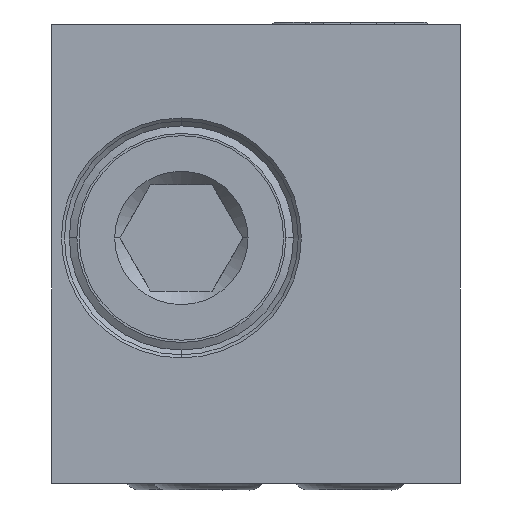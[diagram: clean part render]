
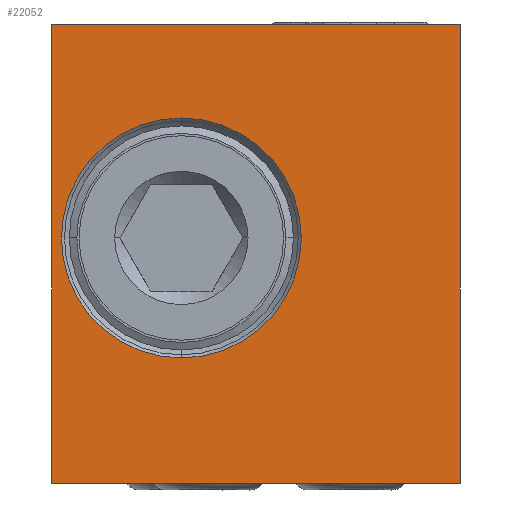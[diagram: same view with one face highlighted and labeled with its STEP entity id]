
A CAD part, left-side view. The second image highlights one B-rep face of the part: STEP entity #22052.
In plain terms, the highlighted planar face has unit normal (-1, 0, 0).
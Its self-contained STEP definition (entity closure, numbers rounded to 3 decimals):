
#3981=DIRECTION('',(0.,0.,1.));
#3982=VECTOR('',#3981,25.8);
#3983=CARTESIAN_POINT('',(-38.,11.5,-12.9));
#3984=LINE('',#3983,#3982);
#3985=DIRECTION('',(0.,-1.,0.));
#3986=VECTOR('',#3985,23.);
#3987=CARTESIAN_POINT('',(-38.,11.5,12.9));
#3988=LINE('',#3987,#3986);
#3989=DIRECTION('',(0.,0.,-1.));
#3990=VECTOR('',#3989,25.8);
#3991=CARTESIAN_POINT('',(-38.,-11.5,12.9));
#3992=LINE('',#3991,#3990);
#3993=DIRECTION('',(0.,1.,0.));
#3994=VECTOR('',#3993,23.);
#3995=CARTESIAN_POINT('',(-38.,-11.5,-12.9));
#3996=LINE('',#3995,#3994);
#3997=CARTESIAN_POINT('',(-38.,4.2,0.9));
#3998=DIRECTION('',(-1.,0.,0.));
#3999=DIRECTION('',(0.,0.,-1.));
#4000=AXIS2_PLACEMENT_3D('',#3997,#3998,#3999);
#4002=CARTESIAN_POINT('',(-38.,4.2,0.9));
#4003=DIRECTION('',(-1.,0.,0.));
#4004=DIRECTION('',(0.,0.,1.));
#4005=AXIS2_PLACEMENT_3D('',#4002,#4003,#4004);
#15190=CARTESIAN_POINT('',(-38.,11.5,12.9));
#15191=VERTEX_POINT('',#15190);
#15192=CARTESIAN_POINT('',(-38.,11.5,-12.9));
#15193=VERTEX_POINT('',#15192);
#15194=CARTESIAN_POINT('',(-38.,-11.5,12.9));
#15195=VERTEX_POINT('',#15194);
#15216=CARTESIAN_POINT('',(-38.,-11.5,-12.9));
#15217=VERTEX_POINT('',#15216);
#15262=CARTESIAN_POINT('',(-38.,4.2,-5.85));
#15263=CARTESIAN_POINT('',(-38.,4.2,7.65));
#15264=VERTEX_POINT('',#15262);
#15265=VERTEX_POINT('',#15263);
#22033=CARTESIAN_POINT('',(-38.,0.,0.));
#22034=DIRECTION('',(-1.,0.,0.));
#22035=DIRECTION('',(0.,-1.,0.));
#22036=AXIS2_PLACEMENT_3D('',#22033,#22034,#22035);
#22037=PLANE('',#22036);
#22038=ORIENTED_EDGE('',*,*,#22026,.T.);
#22039=ORIENTED_EDGE('',*,*,#19798,.T.);
#22041=ORIENTED_EDGE('',*,*,#22040,.T.);
#22043=ORIENTED_EDGE('',*,*,#22042,.T.);
#22044=EDGE_LOOP('',(#22038,#22039,#22041,#22043));
#22045=FACE_OUTER_BOUND('',#22044,.F.);
#22047=ORIENTED_EDGE('',*,*,#22046,.T.);
#22049=ORIENTED_EDGE('',*,*,#22048,.T.);
#22050=EDGE_LOOP('',(#22047,#22049));
#22051=FACE_BOUND('',#22050,.F.);
#22052=ADVANCED_FACE('',(#22045,#22051),#22037,.T.);
#4001=CIRCLE('',#4000,6.75);
#4006=CIRCLE('',#4005,6.75);
#19798=EDGE_CURVE('',#15191,#15195,#3988,.T.);
#22026=EDGE_CURVE('',#15193,#15191,#3984,.T.);
#22040=EDGE_CURVE('',#15195,#15217,#3992,.T.);
#22042=EDGE_CURVE('',#15217,#15193,#3996,.T.);
#22046=EDGE_CURVE('',#15264,#15265,#4001,.T.);
#22048=EDGE_CURVE('',#15265,#15264,#4006,.T.);
